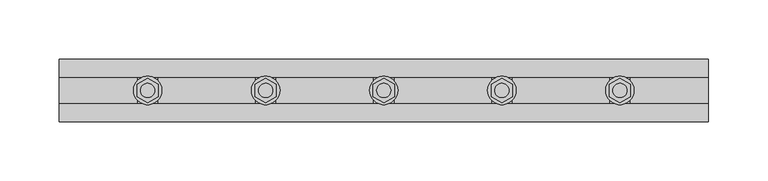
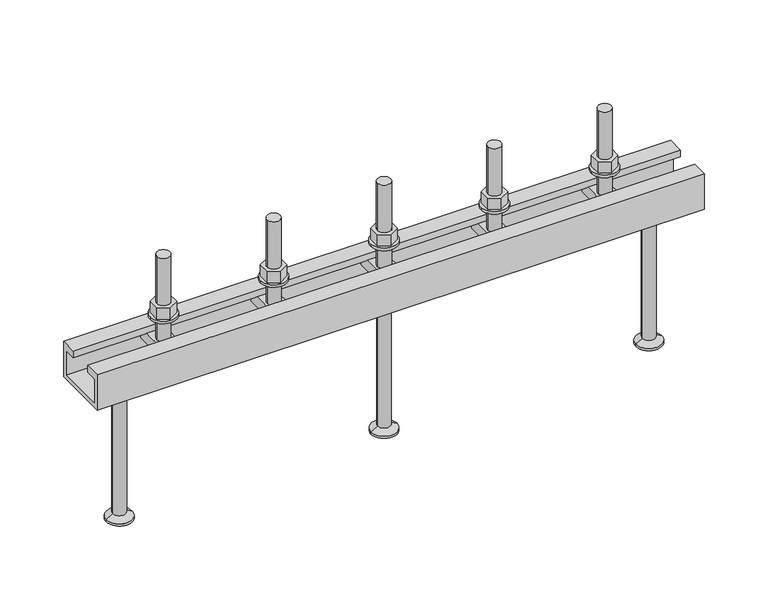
"""IFC4 building model written with IfcOpenShell, lengths in millimetres: fastener geometry, JTA-W JORDAHL® AnchorChannels : JTA-W L=550 mm."""

import ifcopenshell
import ifcopenshell.guid

model = None  # the IFC model being written
_history = None  # IfcOwnerHistory: only IFC2X3 demands one
_inside = {}  # id of a spatial element -> (the spatial element, [elements in it])
_under = {}  # id of a project, library or spatial element -> (it, [spatial elements below it])
_declared = {}  # id of a project -> (the project, [libraries it declares])
_typed = {}  # id of a type object -> (the type object, [elements of that type])
_made_of = {}  # id of a material, layer set ... -> (it, [elements and type objects made of it])


def new_model(schema):
    """Start an empty IFC model of exactly this schema.

    Asked for "IFC4X3", IfcOpenShell would pick the latest addendum, in which some entities
    have other attributes; the version numbers below select the first issue.
    IFC2X3 requires an IfcOwnerHistory on every rooted entity: one is made here for all.
    """
    global model, _history
    if schema == "IFC4X3":
        model = ifcopenshell.file(schema_version=(4, 3, 0, 0))
    else:
        model = ifcopenshell.file(schema=schema)
    _inside.clear()
    _under.clear()
    _declared.clear()
    _typed.clear()
    _made_of.clear()
    _history = None
    if model.schema == "IFC2X3":
        org = make("IfcOrganization", Name="unknown")
        user = make(
            "IfcPersonAndOrganization",
            ThePerson=make("IfcPerson", FamilyName="unknown"),
            TheOrganization=org,
        )
        app = make(
            "IfcApplication",
            ApplicationDeveloper=org,
            Version="unknown",
            ApplicationFullName="unknown",
            ApplicationIdentifier="unknown",
        )
        _history = make(
            "IfcOwnerHistory",
            OwningUser=user,
            OwningApplication=app,
            ChangeAction="ADDED",
            CreationDate=0,
        )
    return model


def make(cls, **values):
    """One entity of the class cls with the attributes given. An attribute that is None is left unset."""
    return model.create_entity(
        cls, **{name: value for name, value in values.items() if value is not None}
    )


def rooted(cls, **values):
    """An entity with a GlobalId (a new one), such as an element, a storey or a relation."""
    return make(cls, GlobalId=ifcopenshell.guid.new(), OwnerHistory=_history, **values)


def si_unit(unit_type, name, prefix=None):
    """IfcSIUnit, for example si_unit("LENGTHUNIT", "METRE", prefix="MILLI")."""
    return make("IfcSIUnit", UnitType=unit_type, Prefix=prefix, Name=name)


def assignment(units):
    """IfcUnitAssignment: the units of a project."""
    return None if units is None else make("IfcUnitAssignment", Units=units)


def point(xyz):
    """IfcCartesianPoint."""
    return None if xyz is None else make("IfcCartesianPoint", Coordinates=xyz)


def direction(xyz):
    """IfcDirection."""
    return None if xyz is None else make("IfcDirection", DirectionRatios=xyz)


def frame(location, z_axis=None, x_axis=None):
    """IfcAxis2Placement3D, a coordinate frame: its origin and axes. An axis left out is left unset."""
    return make(
        "IfcAxis2Placement3D",
        Location=point(location),
        Axis=direction(z_axis),
        RefDirection=direction(x_axis),
    )


def frame_2d(location, x_axis=None):
    """IfcAxis2Placement2D, a coordinate frame in the plane: its origin and x axis."""
    return make(
        "IfcAxis2Placement2D", Location=point(location), RefDirection=direction(x_axis)
    )


def origin():
    """The frame at (0, 0, 0) with its axes left unset."""
    return frame((0.0, 0.0, 0.0))


def place(relative_to, where):
    """IfcLocalPlacement: puts the frame where relative to a parent placement (None: the world)."""
    return make(
        "IfcLocalPlacement", PlacementRelTo=relative_to, RelativePlacement=where
    )


def context(
    kind, dimensions, precision=None, world=None, true_north=None, identifier=None
):
    """IfcGeometricRepresentationContext, for example the 3D "Model" context."""
    return make(
        "IfcGeometricRepresentationContext",
        ContextIdentifier=identifier,
        ContextType=kind,
        CoordinateSpaceDimension=dimensions,
        Precision=precision,
        WorldCoordinateSystem=world,
        TrueNorth=true_north,
    )


def project(units=None, contexts=None):
    """IfcProject with its units and contexts."""
    return rooted(
        "IfcProject",
        Name="project",
        RepresentationContexts=contexts,
        UnitsInContext=assignment(units),
    )


def spatial(cls, under=None, at=None, **own):
    """A site, building, storey or space (cls), placed at a placement, below another one or the project."""
    s = rooted(cls, ObjectPlacement=at, **own)
    if under is not None:
        _under.setdefault(under.id(), (under, []))[1].append(s)
    return s


def polyline(points):
    """IfcPolyline through the points."""
    return make("IfcPolyline", Points=[point(p) for p in points])


def circle_curve(where, radius):
    """IfcCircle in the frame where."""
    return make("IfcCircle", Position=where, Radius=radius)


def trimmed(basis, trim1, trim2, sense, master):
    """IfcTrimmedCurve: the piece of a basis curve between two trims."""
    return make(
        "IfcTrimmedCurve",
        BasisCurve=basis,
        Trim1=trim1,
        Trim2=trim2,
        SenseAgreement=sense,
        MasterRepresentation=master,
    )


def segment(curve, same_sense, transition):
    """IfcCompositeCurveSegment."""
    return make(
        "IfcCompositeCurveSegment",
        Transition=transition,
        SameSense=same_sense,
        ParentCurve=curve,
    )


def composite_curve(segments, self_intersect=None):
    """IfcCompositeCurve: segments joined end to end."""
    return make("IfcCompositeCurve", Segments=segments, SelfIntersect=self_intersect)


def outline(outer, holes=None, kind="AREA"):
    """IfcArbitraryClosedProfileDef: a profile drawn as a closed curve; with holes, ...WithVoids."""
    if holes is None:
        return make("IfcArbitraryClosedProfileDef", ProfileType=kind, OuterCurve=outer)
    return make(
        "IfcArbitraryProfileDefWithVoids",
        ProfileType=kind,
        OuterCurve=outer,
        InnerCurves=holes,
    )


def extrude(swept, where, along, depth):
    """IfcExtrudedAreaSolid: the profile swept, set in the frame where, extruded along a direction by depth."""
    return make(
        "IfcExtrudedAreaSolid",
        SweptArea=swept,
        Position=where,
        ExtrudedDirection=direction(along),
        Depth=depth,
    )


def shape(context_of_items, identifier, shape_type, items):
    """IfcShapeRepresentation: the items that make up one representation, for example the "Body"."""
    return make(
        "IfcShapeRepresentation",
        ContextOfItems=context_of_items,
        RepresentationIdentifier=identifier,
        RepresentationType=shape_type,
        Items=items,
    )


def source(mapping_origin, context_of_items, identifier, shape_type, items):
    """IfcRepresentationMap: a shape defined once, which mapped items show again and again."""
    return make(
        "IfcRepresentationMap",
        MappingOrigin=mapping_origin,
        MappedRepresentation=shape(context_of_items, identifier, shape_type, items),
    )


def transform(
    local_origin,
    x_axis=None,
    y_axis=None,
    z_axis=None,
    scale=None,
    scale2=None,
    scale3=None,
    uniform=True,
):
    """IfcCartesianTransformationOperator3D, or its non-uniform kind. x_axis, y_axis, z_axis: its Axis1, 2, 3."""
    if uniform:
        return make(
            "IfcCartesianTransformationOperator3D",
            Axis1=direction(x_axis),
            Axis2=direction(y_axis),
            LocalOrigin=point(local_origin),
            Scale=scale,
            Axis3=direction(z_axis),
        )
    return make(
        "IfcCartesianTransformationOperator3DnonUniform",
        Axis1=direction(x_axis),
        Axis2=direction(y_axis),
        LocalOrigin=point(local_origin),
        Scale=scale,
        Axis3=direction(z_axis),
        Scale2=scale2,
        Scale3=scale3,
    )


def mapped(mapping_source, mapping_target):
    """IfcMappedItem: shows the shape of a source again, moved by a transform."""
    return make(
        "IfcMappedItem", MappingSource=mapping_source, MappingTarget=mapping_target
    )


def made_of(thing, what):
    """Note that an element or type object is made of a material, layer set ...; save() writes the relation."""
    if what is not None:
        _made_of.setdefault(what.id(), (what, []))[1].append(thing)
    return thing


def element(
    cls,
    number,
    at=None,
    inside=None,
    cuts=None,
    type_object=None,
    material=None,
    context=None,
    identifier="Body",
    shape_type=None,
    held_by="IfcProductDefinitionShape",
    body=None,
    shapes=None,
    **own,
):
    """One element of the class cls, such as IfcWall. Its Tag is "e" and its number.

    at: its placement. inside: the storey or other place that contains it. cuts: it is an
    opening in that element (IfcRelVoidsElement). A single representation is given by context,
    identifier, shape_type and body (its items); several are given by shapes. held_by: the class
    of the entity that holds the representations. save() writes the other relations.
    """
    e = rooted(cls, Tag="e%d" % number, ObjectPlacement=at, **own)
    if body is not None:
        shapes = [shape(context, identifier, shape_type, body)]
    if shapes is not None:
        e.Representation = make(held_by, Representations=shapes)
    if inside is not None:
        _inside.setdefault(inside.id(), (inside, []))[1].append(e)
    if cuts is not None:
        rooted(
            "IfcRelVoidsElement", RelatingBuildingElement=cuts, RelatedOpeningElement=e
        )
    if type_object is not None:
        _typed.setdefault(type_object.id(), (type_object, []))[1].append(e)
    return made_of(e, material)


def aggregate(whole, parts):
    """IfcRelAggregates: a whole, such as a stair, and the parts it consists of."""
    return rooted("IfcRelAggregates", RelatingObject=whole, RelatedObjects=parts)


def save(model, path):
    """Write the relations noted so far, then the file.

    IfcRelAggregates (storeys below a building ...), IfcRelContainedInSpatialStructure (elements
    in a storey), IfcRelDefinesByType, IfcRelAssociatesMaterial and IfcRelDeclares: one each for
    every whole, place, type object, material and project.
    """
    for whole, parts in _under.values():
        aggregate(whole, parts)
    for where, things in _inside.values():
        rooted(
            "IfcRelContainedInSpatialStructure",
            RelatedElements=things,
            RelatingStructure=where,
        )
    for kind, things in _typed.values():
        rooted("IfcRelDefinesByType", RelatedObjects=things, RelatingType=kind)
    for what, things in _made_of.values():
        rooted("IfcRelAssociatesMaterial", RelatedObjects=things, RelatingMaterial=what)
    for by, libraries in _declared.values():
        rooted("IfcRelDeclares", RelatingContext=by, RelatedDefinitions=libraries)
    model.write(path)


def plane_surface(at):
    """IfcPlane: the flat surface through the origin of the frame at, square to its z axis."""
    return make("IfcPlane", Position=at)


def cylinder_surface(at, radius):
    """IfcCylindricalSurface: all points at the distance radius from the z axis of the frame at."""
    return make("IfcCylindricalSurface", Position=at, Radius=radius)


def revolved_surface(curve, axis_point, axis_direction):
    """IfcSurfaceOfRevolution: the curve turned about the line through axis_point along axis_direction."""
    return make(
        "IfcSurfaceOfRevolution",
        SweptCurve=make("IfcArbitraryOpenProfileDef", ProfileType="CURVE", Curve=curve),
        AxisPosition=make("IfcAxis1Placement", Location=point(axis_point), Axis=direction(axis_direction)),
    )


def advanced_brep(points, edges, surfaces, faces):
    """IfcAdvancedBrep: a solid bounded by faces that lie on surfaces and meet in shared edges.

    An edge is (start, end): straight between two places in points (the first is 0);
    or (start, end, curve); or (start, end, curve, False) where it runs against its curve.
    A face is (place in surfaces, loops), or (place, loops, False) where it looks against
    its surface's normal. A loop lists edges by number (the first is 1), with a minus sign
    where the edge is run from its end to its start. The first loop is the outer one.
    """
    corners = [point(p) for p in points]
    vertices = [make("IfcVertexPoint", VertexGeometry=c) for c in corners]
    made = []
    for start, end, *more in edges:
        made.append(
            make(
                "IfcEdgeCurve",
                EdgeStart=vertices[start],
                EdgeEnd=vertices[end],
                EdgeGeometry=more[0] if more else make("IfcPolyline", Points=[corners[start], corners[end]]),
                SameSense=more[1] if len(more) > 1 else True,
            )
        )
    hull = []
    for where, loops, *sense in faces:
        bounds = []
        for j, loop in enumerate(loops):
            ring = [make("IfcOrientedEdge", EdgeElement=made[abs(k) - 1], Orientation=k > 0) for k in loop]
            bounds.append(
                make(
                    "IfcFaceOuterBound" if j == 0 else "IfcFaceBound",
                    Bound=make("IfcEdgeLoop", EdgeList=ring),
                    Orientation=True,
                )
            )
        hull.append(make("IfcAdvancedFace", Bounds=bounds, FaceSurface=surfaces[where], SameSense=sense[0] if sense else True))
    return make("IfcAdvancedBrep", Outer=make("IfcClosedShell", CfsFaces=hull))


def fastener_7f6a9965(model_context):
    return source(origin(), model_context, "Body", "SolidModel", [
        extrude(outline(polyline([(375.0, -10.3923048), (366.0, -5.1961524), (366.0, 5.1961524), (375.0, 10.3923048), (384.0, 5.1961524), (384.0, -5.1961524), (375.0, -10.3923048)]), holes=[composite_curve([segment(trimmed(circle_curve(frame_2d((375.0, 0.0)), 6.0), [point((369.0, 0.0))], [point((381.0, 0.0))], True, "CARTESIAN"), True, "CONTINUOUS"), segment(trimmed(circle_curve(frame_2d((375.0, 0.0)), 6.0), [point((381.0, 0.0))], [point((369.0, 0.0))], True, "CARTESIAN"), True, "CONTINUOUS")], self_intersect=False)]), frame((0.0, 0.0, 17.5), z_axis=(0.0, 0.0, 1.0), x_axis=(1.0, 0.0, 0.0)), (0.0, 0.0, 1.0), 10.8),
        extrude(outline(composite_curve([segment(trimmed(circle_curve(frame_2d((375.0, 0.0)), 12.0), [point((363.0, 0.0))], [point((387.0, 0.0))], False, "CARTESIAN"), True, "CONTINUOUS"), segment(trimmed(circle_curve(frame_2d((375.0, 0.0)), 12.0), [point((387.0, 0.0))], [point((363.0, 0.0))], False, "CARTESIAN"), True, "CONTINUOUS")], self_intersect=False), holes=[composite_curve([segment(trimmed(circle_curve(frame_2d((375.0, 0.0)), 6.5), [point((368.5, 0.0))], [point((381.5, 0.0))], True, "CARTESIAN"), True, "CONTINUOUS"), segment(trimmed(circle_curve(frame_2d((375.0, 0.0)), 6.5), [point((381.5, 0.0))], [point((368.5, 0.0))], True, "CARTESIAN"), True, "CONTINUOUS")], self_intersect=False)]), frame((0.0, 0.0, 15.0), z_axis=(0.0, 0.0, 1.0), x_axis=(1.0, 0.0, 0.0)), (0.0, 0.0, 1.0), 2.5),
        extrude(outline(polyline([(275.0, -10.3923048), (266.0, -5.1961524), (266.0, 5.1961524), (275.0, 10.3923048), (284.0, 5.1961524), (284.0, -5.1961524), (275.0, -10.3923048)]), holes=[composite_curve([segment(trimmed(circle_curve(frame_2d((275.0, 0.0)), 6.0), [point((269.0, 0.0))], [point((281.0, 0.0))], True, "CARTESIAN"), True, "CONTINUOUS"), segment(trimmed(circle_curve(frame_2d((275.0, 0.0)), 6.0), [point((281.0, 0.0))], [point((269.0, 0.0))], True, "CARTESIAN"), True, "CONTINUOUS")], self_intersect=False)]), frame((0.0, 0.0, 17.5), z_axis=(0.0, 0.0, 1.0), x_axis=(1.0, 0.0, 0.0)), (0.0, 0.0, 1.0), 10.8),
        extrude(outline(composite_curve([segment(trimmed(circle_curve(frame_2d((275.0, 0.0)), 12.0), [point((263.0, 0.0))], [point((287.0, 0.0))], False, "CARTESIAN"), True, "CONTINUOUS"), segment(trimmed(circle_curve(frame_2d((275.0, 0.0)), 12.0), [point((287.0, 0.0))], [point((263.0, 0.0))], False, "CARTESIAN"), True, "CONTINUOUS")], self_intersect=False), holes=[composite_curve([segment(trimmed(circle_curve(frame_2d((275.0, 0.0)), 6.5), [point((268.5, 0.0))], [point((281.5, 0.0))], True, "CARTESIAN"), True, "CONTINUOUS"), segment(trimmed(circle_curve(frame_2d((275.0, 0.0)), 6.5), [point((281.5, 0.0))], [point((268.5, 0.0))], True, "CARTESIAN"), True, "CONTINUOUS")], self_intersect=False)]), frame((0.0, 0.0, 15.0), z_axis=(0.0, 0.0, 1.0), x_axis=(1.0, 0.0, 0.0)), (0.0, 0.0, 1.0), 2.5),
        extrude(outline(polyline([(175.0, -10.3923048), (166.0, -5.1961524), (166.0, 5.1961524), (175.0, 10.3923048), (184.0, 5.1961524), (184.0, -5.1961524), (175.0, -10.3923048)]), holes=[composite_curve([segment(trimmed(circle_curve(frame_2d((175.0, 0.0)), 6.0), [point((169.0, 0.0))], [point((181.0, 0.0))], True, "CARTESIAN"), True, "CONTINUOUS"), segment(trimmed(circle_curve(frame_2d((175.0, 0.0)), 6.0), [point((181.0, 0.0))], [point((169.0, 0.0))], True, "CARTESIAN"), True, "CONTINUOUS")], self_intersect=False)]), frame((0.0, 0.0, 17.5), z_axis=(0.0, 0.0, 1.0), x_axis=(1.0, 0.0, 0.0)), (0.0, 0.0, 1.0), 10.8),
        extrude(outline(composite_curve([segment(trimmed(circle_curve(frame_2d((175.0, 0.0)), 12.0), [point((163.0, 0.0))], [point((187.0, 0.0))], False, "CARTESIAN"), True, "CONTINUOUS"), segment(trimmed(circle_curve(frame_2d((175.0, 0.0)), 12.0), [point((187.0, 0.0))], [point((163.0, 0.0))], False, "CARTESIAN"), True, "CONTINUOUS")], self_intersect=False), holes=[composite_curve([segment(trimmed(circle_curve(frame_2d((175.0, 0.0)), 6.5), [point((168.5, 0.0))], [point((181.5, 0.0))], True, "CARTESIAN"), True, "CONTINUOUS"), segment(trimmed(circle_curve(frame_2d((175.0, 0.0)), 6.5), [point((181.5, 0.0))], [point((168.5, 0.0))], True, "CARTESIAN"), True, "CONTINUOUS")], self_intersect=False)]), frame((0.0, 0.0, 15.0), z_axis=(0.0, 0.0, 1.0), x_axis=(1.0, 0.0, 0.0)), (0.0, 0.0, 1.0), 2.5),
        advanced_brep(
        [(383.5, -20.7, -6.5), (383.5, -20.7, -16.5), (383.5, 20.7, -16.5), (383.5, 20.7, -6.5), (366.5, -20.7, -6.5), (366.5, 20.7, -6.5), (366.5, 20.7, -16.5), (366.5, -20.7, -16.5), (381.0, 0.0, -6.5), (369.0, 0.0, -6.5), (369.0, 0.0, 73.5), (381.0, 0.0, 73.5)],
        [
            (0, 1),
            (1, 2),
            (2, 3),
            (3, 0),
            (4, 5),
            (5, 6),
            (6, 7),
            (7, 4),
            (3, 5),
            (4, 0),
            (8, 9, circle_curve(frame((375.0, 0.0, -6.5), z_axis=(0.0, 0.0, -1.0), x_axis=(1.0, 0.0, 0.0)), 6.0)),
            (9, 8, circle_curve(frame((375.0, 0.0, -6.5), z_axis=(0.0, 0.0, -1.0), x_axis=(1.0, 0.0, 0.0)), 6.0)),
            (2, 6),
            (1, 7),
            (10, 11, circle_curve(frame((375.0, 0.0, 73.5), z_axis=(0.0, 0.0, 1.0), x_axis=(1.0, 0.0, 0.0)), 6.0)),
            (11, 10, circle_curve(frame((375.0, 0.0, 73.5), z_axis=(0.0, 0.0, 1.0), x_axis=(1.0, 0.0, 0.0)), 6.0)),
            (11, 8),
            (9, 10),
        ],
        [
            plane_surface(frame((383.5, 20.7, -6.5), z_axis=(1.0, 0.0, 0.0), x_axis=(0.0, 1.0, 0.0))),
            plane_surface(frame((366.5, 20.7, -6.5), z_axis=(-1.0, 0.0, 0.0), x_axis=(0.0, -1.0, 0.0))),
            plane_surface(frame((383.5, -20.7, -6.5), z_axis=(0.0, 0.0, 1.0), x_axis=(-1.0, 0.0, 0.0))),
            plane_surface(frame((383.5, 20.7, -6.5), z_axis=(0.0, 1.0, 0.0), x_axis=(-1.0, 0.0, 0.0))),
            plane_surface(frame((383.5, 20.7, -16.5), z_axis=(0.0, 0.0, -1.0), x_axis=(-1.0, 0.0, 0.0))),
            plane_surface(frame((383.5, -20.7, -16.5), z_axis=(0.0, -1.0, 0.0), x_axis=(-1.0, 0.0, 0.0))),
            plane_surface(frame((381.0, 0.0, 73.5), z_axis=(0.0, 0.0, 1.0), x_axis=(0.0, -1.0, 0.0))),
            cylinder_surface(frame((375.0, 0.0, -6.5), z_axis=(0.0, 0.0, 1.0), x_axis=(1.0, 0.0, 0.0)), 6.0),
        ],
        [
            (0, [[1, 2, 3, 4]]),
            (1, [[5, 6, 7, 8]]),
            (2, [[9, -5, 10, -4], [11, 12]]),
            (3, [[13, -6, -9, -3]]),
            (4, [[14, -7, -13, -2]]),
            (5, [[-10, -8, -14, -1]]),
            (6, [[15, 16]]),
            (7, [[17, -12, 18, -16]]),
            (7, [[-18, -11, -17, -15]]),
        ],
    ),
        advanced_brep(
        [(283.5, -20.7, -6.5), (283.5, -20.7, -16.5), (283.5, 20.7, -16.5), (283.5, 20.7, -6.5), (266.5, -20.7, -6.5), (266.5, 20.7, -6.5), (266.5, 20.7, -16.5), (266.5, -20.7, -16.5), (281.0, 0.0, -6.5), (269.0, 0.0, -6.5), (269.0, 0.0, 73.5), (281.0, 0.0, 73.5)],
        [
            (0, 1),
            (1, 2),
            (2, 3),
            (3, 0),
            (4, 5),
            (5, 6),
            (6, 7),
            (7, 4),
            (3, 5),
            (4, 0),
            (8, 9, circle_curve(frame((275.0, 0.0, -6.5), z_axis=(0.0, 0.0, -1.0), x_axis=(1.0, 0.0, 0.0)), 6.0)),
            (9, 8, circle_curve(frame((275.0, 0.0, -6.5), z_axis=(0.0, 0.0, -1.0), x_axis=(1.0, 0.0, 0.0)), 6.0)),
            (2, 6),
            (1, 7),
            (10, 11, circle_curve(frame((275.0, 0.0, 73.5), z_axis=(0.0, 0.0, 1.0), x_axis=(1.0, 0.0, 0.0)), 6.0)),
            (11, 10, circle_curve(frame((275.0, 0.0, 73.5), z_axis=(0.0, 0.0, 1.0), x_axis=(1.0, 0.0, 0.0)), 6.0)),
            (11, 8),
            (9, 10),
        ],
        [
            plane_surface(frame((283.5, 20.7, -6.5), z_axis=(1.0, 0.0, 0.0), x_axis=(0.0, 1.0, 0.0))),
            plane_surface(frame((266.5, 20.7, -6.5), z_axis=(-1.0, 0.0, 0.0), x_axis=(0.0, -1.0, 0.0))),
            plane_surface(frame((283.5, -20.7, -6.5), z_axis=(0.0, 0.0, 1.0), x_axis=(-1.0, 0.0, 0.0))),
            plane_surface(frame((283.5, 20.7, -6.5), z_axis=(0.0, 1.0, 0.0), x_axis=(-1.0, 0.0, 0.0))),
            plane_surface(frame((283.5, 20.7, -16.5), z_axis=(0.0, 0.0, -1.0), x_axis=(-1.0, 0.0, 0.0))),
            plane_surface(frame((283.5, -20.7, -16.5), z_axis=(0.0, -1.0, 0.0), x_axis=(-1.0, 0.0, 0.0))),
            plane_surface(frame((281.0, 0.0, 73.5), z_axis=(0.0, 0.0, 1.0), x_axis=(0.0, -1.0, 0.0))),
            cylinder_surface(frame((275.0, 0.0, -6.5), z_axis=(0.0, 0.0, 1.0), x_axis=(1.0, 0.0, 0.0)), 6.0),
        ],
        [
            (0, [[1, 2, 3, 4]]),
            (1, [[5, 6, 7, 8]]),
            (2, [[9, -5, 10, -4], [11, 12]]),
            (3, [[13, -6, -9, -3]]),
            (4, [[14, -7, -13, -2]]),
            (5, [[-10, -8, -14, -1]]),
            (6, [[15, 16]]),
            (7, [[17, -12, 18, -16]]),
            (7, [[-18, -11, -17, -15]]),
        ],
    ),
        advanced_brep(
        [(183.5, -20.7, -6.5), (183.5, -20.7, -16.5), (183.5, 20.7, -16.5), (183.5, 20.7, -6.5), (166.5, -20.7, -6.5), (166.5, 20.7, -6.5), (166.5, 20.7, -16.5), (166.5, -20.7, -16.5), (181.0, 0.0, -6.5), (169.0, 0.0, -6.5), (169.0, 0.0, 73.5), (181.0, 0.0, 73.5)],
        [
            (0, 1),
            (1, 2),
            (2, 3),
            (3, 0),
            (4, 5),
            (5, 6),
            (6, 7),
            (7, 4),
            (3, 5),
            (4, 0),
            (8, 9, circle_curve(frame((175.0, 0.0, -6.5), z_axis=(0.0, 0.0, -1.0), x_axis=(1.0, 0.0, 0.0)), 6.0)),
            (9, 8, circle_curve(frame((175.0, 0.0, -6.5), z_axis=(0.0, 0.0, -1.0), x_axis=(1.0, 0.0, 0.0)), 6.0)),
            (2, 6),
            (1, 7),
            (10, 11, circle_curve(frame((175.0, 0.0, 73.5), z_axis=(0.0, 0.0, 1.0), x_axis=(1.0, 0.0, 0.0)), 6.0)),
            (11, 10, circle_curve(frame((175.0, 0.0, 73.5), z_axis=(0.0, 0.0, 1.0), x_axis=(1.0, 0.0, 0.0)), 6.0)),
            (11, 8),
            (9, 10),
        ],
        [
            plane_surface(frame((183.5, 20.7, -6.5), z_axis=(1.0, 0.0, 0.0), x_axis=(0.0, 1.0, 0.0))),
            plane_surface(frame((166.5, 20.7, -6.5), z_axis=(-1.0, 0.0, 0.0), x_axis=(0.0, -1.0, 0.0))),
            plane_surface(frame((183.5, -20.7, -6.5), z_axis=(0.0, 0.0, 1.0), x_axis=(-1.0, 0.0, 0.0))),
            plane_surface(frame((183.5, 20.7, -6.5), z_axis=(0.0, 1.0, 0.0), x_axis=(-1.0, 0.0, 0.0))),
            plane_surface(frame((183.5, 20.7, -16.5), z_axis=(0.0, 0.0, -1.0), x_axis=(-1.0, 0.0, 0.0))),
            plane_surface(frame((183.5, -20.7, -16.5), z_axis=(0.0, -1.0, 0.0), x_axis=(-1.0, 0.0, 0.0))),
            plane_surface(frame((181.0, 0.0, 73.5), z_axis=(0.0, 0.0, 1.0), x_axis=(0.0, -1.0, 0.0))),
            cylinder_surface(frame((175.0, 0.0, -6.5), z_axis=(0.0, 0.0, 1.0), x_axis=(1.0, 0.0, 0.0)), 6.0),
        ],
        [
            (0, [[1, 2, 3, 4]]),
            (1, [[5, 6, 7, 8]]),
            (2, [[9, -5, 10, -4], [11, 12]]),
            (3, [[13, -6, -9, -3]]),
            (4, [[14, -7, -13, -2]]),
            (5, [[-10, -8, -14, -1]]),
            (6, [[15, 16]]),
            (7, [[17, -12, 18, -16]]),
            (7, [[-18, -11, -17, -15]]),
        ],
    ),
        advanced_brep(
        [(275.0, 0.0, -34.0), (257.5, 0.0, -34.0), (292.5, 0.0, -34.0), (263.2, 0.0, -165.0), (275.0, 0.0, -165.0), (286.8, 0.0, -165.0), (263.2, 0.0, -163.0), (286.8, 0.0, -163.0), (269.2, 0.0, -159.5358984), (280.8, 0.0, -159.5358984), (269.2, 0.0, -37.0), (280.8, 0.0, -37.0)],
        [
            (0, 1),
            (1, 2, circle_curve(frame((275.0, 0.0, -34.0), z_axis=(0.0, 0.0, 1.0), x_axis=(1.0, 0.0, 0.0)), 17.5)),
            (2, 0),
            (2, 1, circle_curve(frame((275.0, 0.0, -34.0), z_axis=(0.0, 0.0, 1.0), x_axis=(1.0, 0.0, 0.0)), 17.5)),
            (3, 4),
            (4, 5),
            (5, 3, circle_curve(frame((275.0, 0.0, -165.0), z_axis=(0.0, 0.0, -1.0), x_axis=(1.0, 0.0, 0.0)), 11.8)),
            (3, 5, circle_curve(frame((275.0, 0.0, -165.0), z_axis=(0.0, 0.0, -1.0), x_axis=(1.0, 0.0, 0.0)), 11.8)),
            (6, 3),
            (5, 7),
            (7, 6, circle_curve(frame((275.0, 0.0, -163.0), z_axis=(0.0, 0.0, -1.0), x_axis=(1.0, 0.0, 0.0)), 11.8)),
            (6, 7, circle_curve(frame((275.0, 0.0, -163.0), z_axis=(0.0, 0.0, -1.0), x_axis=(1.0, 0.0, 0.0)), 11.8)),
            (8, 6),
            (7, 9),
            (9, 8, circle_curve(frame((275.0, 0.0, -159.5358984), z_axis=(0.0, 0.0, -1.0), x_axis=(1.0, 0.0, 0.0)), 5.8)),
            (8, 9, circle_curve(frame((275.0, 0.0, -159.5358984), z_axis=(0.0, 0.0, -1.0), x_axis=(1.0, 0.0, 0.0)), 5.8)),
            (10, 8),
            (9, 11),
            (11, 10, circle_curve(frame((275.0, 0.0, -37.0), z_axis=(0.0, 0.0, -1.0), x_axis=(1.0, 0.0, 0.0)), 5.8)),
            (10, 11, circle_curve(frame((275.0, 0.0, -37.0), z_axis=(0.0, 0.0, -1.0), x_axis=(1.0, 0.0, 0.0)), 5.8)),
            (1, 10),
            (11, 2),
        ],
        [
            plane_surface(frame((275.0, 0.0, -34.0), z_axis=(0.0, 0.0, 1.0), x_axis=(1.0, 0.0, 0.0))),
            plane_surface(frame((275.0, 0.0, -165.0), z_axis=(0.0, 0.0, -1.0), x_axis=(1.0, 0.0, 0.0))),
            cylinder_surface(frame((275.0, 0.0, 2345.3150031), z_axis=(0.0, 0.0, 1.0), x_axis=(1.0, 0.0, 0.0)), 11.8),
            revolved_surface(polyline([(286.8, 0.0, -163.0), (280.8, 0.0, -159.5358984)]), (275.0, 0.0, 2345.3150031), (0.0, 0.0, 1.0)),
            cylinder_surface(frame((275.0, 0.0, 2345.3150031), z_axis=(0.0, 0.0, 1.0), x_axis=(1.0, 0.0, 0.0)), 5.8),
            revolved_surface(polyline([(280.8, 0.0, -37.0), (292.5, 0.0, -34.0)]), (275.0, 0.0, 2345.3150031), (0.0, 0.0, 1.0)),
        ],
        [
            (0, [[1, 2, 3]]),
            (0, [[-3, 4, -1]]),
            (1, [[5, 6, 7]]),
            (1, [[-6, -5, 8]]),
            (2, [[9, -7, 10, 11]]),
            (2, [[-10, -8, -9, 12]]),
            (3, [[13, -11, 14, 15]]),
            (3, [[-14, -12, -13, 16]]),
            (4, [[17, -15, 18, 19]]),
            (4, [[-18, -16, -17, 20]]),
            (5, [[21, -19, 22, -2]]),
            (5, [[-22, -20, -21, -4]]),
        ],
    ),
        extrude(outline(polyline([(475.0, -10.3923048), (466.0, -5.1961524), (466.0, 5.1961524), (475.0, 10.3923048), (484.0, 5.1961524), (484.0, -5.1961524), (475.0, -10.3923048)]), holes=[composite_curve([segment(trimmed(circle_curve(frame_2d((475.0, 0.0)), 6.0), [point((469.0, 0.0))], [point((481.0, 0.0))], True, "CARTESIAN"), True, "CONTINUOUS"), segment(trimmed(circle_curve(frame_2d((475.0, 0.0)), 6.0), [point((481.0, 0.0))], [point((469.0, 0.0))], True, "CARTESIAN"), True, "CONTINUOUS")], self_intersect=False)]), frame((0.0, 0.0, 17.5), z_axis=(0.0, 0.0, 1.0), x_axis=(1.0, 0.0, 0.0)), (0.0, 0.0, 1.0), 10.8),
        extrude(outline(composite_curve([segment(trimmed(circle_curve(frame_2d((475.0, 0.0)), 12.0), [point((463.0, 0.0))], [point((487.0, 0.0))], False, "CARTESIAN"), True, "CONTINUOUS"), segment(trimmed(circle_curve(frame_2d((475.0, 0.0)), 12.0), [point((487.0, 0.0))], [point((463.0, 0.0))], False, "CARTESIAN"), True, "CONTINUOUS")], self_intersect=False), holes=[composite_curve([segment(trimmed(circle_curve(frame_2d((475.0, 0.0)), 6.5), [point((468.5, 0.0))], [point((481.5, 0.0))], True, "CARTESIAN"), True, "CONTINUOUS"), segment(trimmed(circle_curve(frame_2d((475.0, 0.0)), 6.5), [point((481.5, 0.0))], [point((468.5, 0.0))], True, "CARTESIAN"), True, "CONTINUOUS")], self_intersect=False)]), frame((0.0, 0.0, 15.0), z_axis=(0.0, 0.0, 1.0), x_axis=(1.0, 0.0, 0.0)), (0.0, 0.0, 1.0), 2.5),
        extrude(outline(polyline([(75.0, -10.3923048), (66.0, -5.1961524), (66.0, 5.1961524), (75.0, 10.3923048), (84.0, 5.1961524), (84.0, -5.1961524), (75.0, -10.3923048)]), holes=[composite_curve([segment(trimmed(circle_curve(frame_2d((75.0, 0.0)), 6.0), [point((69.0, 0.0))], [point((81.0, 0.0))], True, "CARTESIAN"), True, "CONTINUOUS"), segment(trimmed(circle_curve(frame_2d((75.0, 0.0)), 6.0), [point((81.0, 0.0))], [point((69.0, 0.0))], True, "CARTESIAN"), True, "CONTINUOUS")], self_intersect=False)]), frame((0.0, 0.0, 17.5), z_axis=(0.0, 0.0, 1.0), x_axis=(1.0, 0.0, 0.0)), (0.0, 0.0, 1.0), 10.8),
        extrude(outline(composite_curve([segment(trimmed(circle_curve(frame_2d((75.0, 0.0)), 12.0), [point((63.0, 0.0))], [point((87.0, 0.0))], False, "CARTESIAN"), True, "CONTINUOUS"), segment(trimmed(circle_curve(frame_2d((75.0, 0.0)), 12.0), [point((87.0, 0.0))], [point((63.0, 0.0))], False, "CARTESIAN"), True, "CONTINUOUS")], self_intersect=False), holes=[composite_curve([segment(trimmed(circle_curve(frame_2d((75.0, 0.0)), 6.5), [point((68.5, 0.0))], [point((81.5, 0.0))], True, "CARTESIAN"), True, "CONTINUOUS"), segment(trimmed(circle_curve(frame_2d((75.0, 0.0)), 6.5), [point((81.5, 0.0))], [point((68.5, 0.0))], True, "CARTESIAN"), True, "CONTINUOUS")], self_intersect=False)]), frame((0.0, 0.0, 15.0), z_axis=(0.0, 0.0, 1.0), x_axis=(1.0, 0.0, 0.0)), (0.0, 0.0, 1.0), 2.5),
        advanced_brep(
        [(483.5, -20.7, -6.5), (483.5, -20.7, -16.5), (483.5, 20.7, -16.5), (483.5, 20.7, -6.5), (466.5, -20.7, -6.5), (466.5, 20.7, -6.5), (466.5, 20.7, -16.5), (466.5, -20.7, -16.5), (481.0, 0.0, -6.5), (469.0, 0.0, -6.5), (469.0, 0.0, 73.5), (481.0, 0.0, 73.5)],
        [
            (0, 1),
            (1, 2),
            (2, 3),
            (3, 0),
            (4, 5),
            (5, 6),
            (6, 7),
            (7, 4),
            (3, 5),
            (4, 0),
            (8, 9, circle_curve(frame((475.0, 0.0, -6.5), z_axis=(0.0, 0.0, -1.0), x_axis=(1.0, 0.0, 0.0)), 6.0)),
            (9, 8, circle_curve(frame((475.0, 0.0, -6.5), z_axis=(0.0, 0.0, -1.0), x_axis=(1.0, 0.0, 0.0)), 6.0)),
            (2, 6),
            (1, 7),
            (10, 11, circle_curve(frame((475.0, 0.0, 73.5), z_axis=(0.0, 0.0, 1.0), x_axis=(1.0, 0.0, 0.0)), 6.0)),
            (11, 10, circle_curve(frame((475.0, 0.0, 73.5), z_axis=(0.0, 0.0, 1.0), x_axis=(1.0, 0.0, 0.0)), 6.0)),
            (11, 8),
            (9, 10),
        ],
        [
            plane_surface(frame((483.5, 20.7, -6.5), z_axis=(1.0, 0.0, 0.0), x_axis=(0.0, 1.0, 0.0))),
            plane_surface(frame((466.5, 20.7, -6.5), z_axis=(-1.0, 0.0, 0.0), x_axis=(0.0, -1.0, 0.0))),
            plane_surface(frame((483.5, -20.7, -6.5), z_axis=(0.0, 0.0, 1.0), x_axis=(-1.0, 0.0, 0.0))),
            plane_surface(frame((483.5, 20.7, -6.5), z_axis=(0.0, 1.0, 0.0), x_axis=(-1.0, 0.0, 0.0))),
            plane_surface(frame((483.5, 20.7, -16.5), z_axis=(0.0, 0.0, -1.0), x_axis=(-1.0, 0.0, 0.0))),
            plane_surface(frame((483.5, -20.7, -16.5), z_axis=(0.0, -1.0, 0.0), x_axis=(-1.0, 0.0, 0.0))),
            plane_surface(frame((481.0, 0.0, 73.5), z_axis=(0.0, 0.0, 1.0), x_axis=(0.0, -1.0, 0.0))),
            cylinder_surface(frame((475.0, 0.0, -6.5), z_axis=(0.0, 0.0, 1.0), x_axis=(1.0, 0.0, 0.0)), 6.0),
        ],
        [
            (0, [[1, 2, 3, 4]]),
            (1, [[5, 6, 7, 8]]),
            (2, [[9, -5, 10, -4], [11, 12]]),
            (3, [[13, -6, -9, -3]]),
            (4, [[14, -7, -13, -2]]),
            (5, [[-10, -8, -14, -1]]),
            (6, [[15, 16]]),
            (7, [[17, -12, 18, -16]]),
            (7, [[-18, -11, -17, -15]]),
        ],
    ),
        advanced_brep(
        [(83.5, -20.7, -6.5), (83.5, -20.7, -16.5), (83.5, 20.7, -16.5), (83.5, 20.7, -6.5), (66.5, -20.7, -6.5), (66.5, 20.7, -6.5), (66.5, 20.7, -16.5), (66.5, -20.7, -16.5), (81.0, 0.0, -6.5), (69.0, 0.0, -6.5), (69.0, 0.0, 73.5), (81.0, 0.0, 73.5)],
        [
            (0, 1),
            (1, 2),
            (2, 3),
            (3, 0),
            (4, 5),
            (5, 6),
            (6, 7),
            (7, 4),
            (3, 5),
            (4, 0),
            (8, 9, circle_curve(frame((75.0, 0.0, -6.5), z_axis=(0.0, 0.0, -1.0), x_axis=(1.0, 0.0, 0.0)), 6.0)),
            (9, 8, circle_curve(frame((75.0, 0.0, -6.5), z_axis=(0.0, 0.0, -1.0), x_axis=(1.0, 0.0, 0.0)), 6.0)),
            (2, 6),
            (1, 7),
            (10, 11, circle_curve(frame((75.0, 0.0, 73.5), z_axis=(0.0, 0.0, 1.0), x_axis=(1.0, 0.0, 0.0)), 6.0)),
            (11, 10, circle_curve(frame((75.0, 0.0, 73.5), z_axis=(0.0, 0.0, 1.0), x_axis=(1.0, 0.0, 0.0)), 6.0)),
            (11, 8),
            (9, 10),
        ],
        [
            plane_surface(frame((83.5, 20.7, -6.5), z_axis=(1.0, 0.0, 0.0), x_axis=(0.0, 1.0, 0.0))),
            plane_surface(frame((66.5, 20.7, -6.5), z_axis=(-1.0, 0.0, 0.0), x_axis=(0.0, -1.0, 0.0))),
            plane_surface(frame((83.5, -20.7, -6.5), z_axis=(0.0, 0.0, 1.0), x_axis=(-1.0, 0.0, 0.0))),
            plane_surface(frame((83.5, 20.7, -6.5), z_axis=(0.0, 1.0, 0.0), x_axis=(-1.0, 0.0, 0.0))),
            plane_surface(frame((83.5, 20.7, -16.5), z_axis=(0.0, 0.0, -1.0), x_axis=(-1.0, 0.0, 0.0))),
            plane_surface(frame((83.5, -20.7, -16.5), z_axis=(0.0, -1.0, 0.0), x_axis=(-1.0, 0.0, 0.0))),
            plane_surface(frame((81.0, 0.0, 73.5), z_axis=(0.0, 0.0, 1.0), x_axis=(0.0, -1.0, 0.0))),
            cylinder_surface(frame((75.0, 0.0, -6.5), z_axis=(0.0, 0.0, 1.0), x_axis=(1.0, 0.0, 0.0)), 6.0),
        ],
        [
            (0, [[1, 2, 3, 4]]),
            (1, [[5, 6, 7, 8]]),
            (2, [[9, -5, 10, -4], [11, 12]]),
            (3, [[13, -6, -9, -3]]),
            (4, [[14, -7, -13, -2]]),
            (5, [[-10, -8, -14, -1]]),
            (6, [[15, 16]]),
            (7, [[17, -12, 18, -16]]),
            (7, [[-18, -11, -17, -15]]),
        ],
    ),
        advanced_brep(
        [(515.0, 0.0, -34.0), (497.5, 0.0, -34.0), (532.5, 0.0, -34.0), (503.2, 0.0, -165.0), (515.0, 0.0, -165.0), (526.8, 0.0, -165.0), (503.2, 0.0, -163.0), (526.8, 0.0, -163.0), (509.2, 0.0, -159.5358984), (520.8, 0.0, -159.5358984), (509.2, 0.0, -37.0), (520.8, 0.0, -37.0)],
        [
            (0, 1),
            (1, 2, circle_curve(frame((515.0, 0.0, -34.0), z_axis=(0.0, 0.0, 1.0), x_axis=(1.0, 0.0, 0.0)), 17.5)),
            (2, 0),
            (2, 1, circle_curve(frame((515.0, 0.0, -34.0), z_axis=(0.0, 0.0, 1.0), x_axis=(1.0, 0.0, 0.0)), 17.5)),
            (3, 4),
            (4, 5),
            (5, 3, circle_curve(frame((515.0, 0.0, -165.0), z_axis=(0.0, 0.0, -1.0), x_axis=(1.0, 0.0, 0.0)), 11.8)),
            (3, 5, circle_curve(frame((515.0, 0.0, -165.0), z_axis=(0.0, 0.0, -1.0), x_axis=(1.0, 0.0, 0.0)), 11.8)),
            (6, 3),
            (5, 7),
            (7, 6, circle_curve(frame((515.0, 0.0, -163.0), z_axis=(0.0, 0.0, -1.0), x_axis=(1.0, 0.0, 0.0)), 11.8)),
            (6, 7, circle_curve(frame((515.0, 0.0, -163.0), z_axis=(0.0, 0.0, -1.0), x_axis=(1.0, 0.0, 0.0)), 11.8)),
            (8, 6),
            (7, 9),
            (9, 8, circle_curve(frame((515.0, 0.0, -159.5358984), z_axis=(0.0, 0.0, -1.0), x_axis=(1.0, 0.0, 0.0)), 5.8)),
            (8, 9, circle_curve(frame((515.0, 0.0, -159.5358984), z_axis=(0.0, 0.0, -1.0), x_axis=(1.0, 0.0, 0.0)), 5.8)),
            (10, 8),
            (9, 11),
            (11, 10, circle_curve(frame((515.0, 0.0, -37.0), z_axis=(0.0, 0.0, -1.0), x_axis=(1.0, 0.0, 0.0)), 5.8)),
            (10, 11, circle_curve(frame((515.0, 0.0, -37.0), z_axis=(0.0, 0.0, -1.0), x_axis=(1.0, 0.0, 0.0)), 5.8)),
            (1, 10),
            (11, 2),
        ],
        [
            plane_surface(frame((515.0, 0.0, -34.0), z_axis=(0.0, 0.0, 1.0), x_axis=(1.0, 0.0, 0.0))),
            plane_surface(frame((515.0, 0.0, -165.0), z_axis=(0.0, 0.0, -1.0), x_axis=(1.0, 0.0, 0.0))),
            cylinder_surface(frame((515.0, 0.0, 2345.3150031), z_axis=(0.0, 0.0, 1.0), x_axis=(1.0, 0.0, 0.0)), 11.8),
            revolved_surface(polyline([(526.8, 0.0, -163.0), (520.8, 0.0, -159.5358984)]), (515.0, 0.0, 2345.3150031), (0.0, 0.0, 1.0)),
            cylinder_surface(frame((515.0, 0.0, 2345.3150031), z_axis=(0.0, 0.0, 1.0), x_axis=(1.0, 0.0, 0.0)), 5.8),
            revolved_surface(polyline([(520.8, 0.0, -37.0), (532.5, 0.0, -34.0)]), (515.0, 0.0, 2345.3150031), (0.0, 0.0, 1.0)),
        ],
        [
            (0, [[1, 2, 3]]),
            (0, [[-3, 4, -1]]),
            (1, [[5, 6, 7]]),
            (1, [[-6, -5, 8]]),
            (2, [[9, -7, 10, 11]]),
            (2, [[-10, -8, -9, 12]]),
            (3, [[13, -11, 14, 15]]),
            (3, [[-14, -12, -13, 16]]),
            (4, [[17, -15, 18, 19]]),
            (4, [[-18, -16, -17, 20]]),
            (5, [[21, -19, 22, -2]]),
            (5, [[-22, -20, -21, -4]]),
        ],
    ),
        advanced_brep(
        [(35.0, 0.0, -34.0), (17.5, 0.0, -34.0), (52.5, 0.0, -34.0), (23.2, 0.0, -165.0), (35.0, 0.0, -165.0), (46.8, 0.0, -165.0), (23.2, 0.0, -163.0), (46.8, 0.0, -163.0), (29.2, 0.0, -159.5358984), (40.8, 0.0, -159.5358984), (29.2, 0.0, -37.0), (40.8, 0.0, -37.0)],
        [
            (0, 1),
            (1, 2, circle_curve(frame((35.0, 0.0, -34.0), z_axis=(0.0, 0.0, 1.0), x_axis=(1.0, 0.0, 0.0)), 17.5)),
            (2, 0),
            (2, 1, circle_curve(frame((35.0, 0.0, -34.0), z_axis=(0.0, 0.0, 1.0), x_axis=(1.0, 0.0, 0.0)), 17.5)),
            (3, 4),
            (4, 5),
            (5, 3, circle_curve(frame((35.0, 0.0, -165.0), z_axis=(0.0, 0.0, -1.0), x_axis=(1.0, 0.0, 0.0)), 11.8)),
            (3, 5, circle_curve(frame((35.0, 0.0, -165.0), z_axis=(0.0, 0.0, -1.0), x_axis=(1.0, 0.0, 0.0)), 11.8)),
            (6, 3),
            (5, 7),
            (7, 6, circle_curve(frame((35.0, 0.0, -163.0), z_axis=(0.0, 0.0, -1.0), x_axis=(1.0, 0.0, 0.0)), 11.8)),
            (6, 7, circle_curve(frame((35.0, 0.0, -163.0), z_axis=(0.0, 0.0, -1.0), x_axis=(1.0, 0.0, 0.0)), 11.8)),
            (8, 6),
            (7, 9),
            (9, 8, circle_curve(frame((35.0, 0.0, -159.5358984), z_axis=(0.0, 0.0, -1.0), x_axis=(1.0, 0.0, 0.0)), 5.8)),
            (8, 9, circle_curve(frame((35.0, 0.0, -159.5358984), z_axis=(0.0, 0.0, -1.0), x_axis=(1.0, 0.0, 0.0)), 5.8)),
            (10, 8),
            (9, 11),
            (11, 10, circle_curve(frame((35.0, 0.0, -37.0), z_axis=(0.0, 0.0, -1.0), x_axis=(1.0, 0.0, 0.0)), 5.8)),
            (10, 11, circle_curve(frame((35.0, 0.0, -37.0), z_axis=(0.0, 0.0, -1.0), x_axis=(1.0, 0.0, 0.0)), 5.8)),
            (1, 10),
            (11, 2),
        ],
        [
            plane_surface(frame((35.0, 0.0, -34.0), z_axis=(0.0, 0.0, 1.0), x_axis=(1.0, 0.0, 0.0))),
            plane_surface(frame((35.0, 0.0, -165.0), z_axis=(0.0, 0.0, -1.0), x_axis=(1.0, 0.0, 0.0))),
            cylinder_surface(frame((35.0, 0.0, 2345.3150031), z_axis=(0.0, 0.0, 1.0), x_axis=(1.0, 0.0, 0.0)), 11.8),
            revolved_surface(polyline([(46.8, 0.0, -163.0), (40.8, 0.0, -159.5358984)]), (35.0, 0.0, 2345.3150031), (0.0, 0.0, 1.0)),
            cylinder_surface(frame((35.0, 0.0, 2345.3150031), z_axis=(0.0, 0.0, 1.0), x_axis=(1.0, 0.0, 0.0)), 5.8),
            revolved_surface(polyline([(40.8, 0.0, -37.0), (52.5, 0.0, -34.0)]), (35.0, 0.0, 2345.3150031), (0.0, 0.0, 1.0)),
        ],
        [
            (0, [[1, 2, 3]]),
            (0, [[-3, 4, -1]]),
            (1, [[5, 6, 7]]),
            (1, [[-6, -5, 8]]),
            (2, [[9, -7, 10, 11]]),
            (2, [[-10, -8, -9, 12]]),
            (3, [[13, -11, 14, 15]]),
            (3, [[-14, -12, -13, 16]]),
            (4, [[17, -15, 18, 19]]),
            (4, [[-18, -16, -17, 20]]),
            (5, [[21, -19, 22, -2]]),
            (5, [[-22, -20, -21, -4]]),
        ],
    ),
        extrude(outline(polyline([(-26.5, 0.0), (-11.25, 0.0), (-11.25, -6.5), (-22.5, -6.5), (-22.5, -30.0), (22.5, -30.0), (22.5, -6.5), (11.25, -6.5), (11.25, 0.0), (26.5, 0.0), (26.5, -34.0), (-26.5, -34.0), (-26.5, 0.0)])), frame((0.0, 0.0, 0.0), z_axis=(1.0, 0.0, 0.0), x_axis=(0.0, 1.0, 0.0)), (0.0, 0.0, 1.0), 550.0),
    ])


if __name__ == "__main__":
    model = new_model("IFC4")
    model_context = context("Model", 3, world=origin())
    ifc_project = project(units=[si_unit("LENGTHUNIT", "METRE", prefix="MILLI")], contexts=[model_context])
    site = spatial("IfcSite", under=ifc_project)
    building = spatial("IfcBuilding", under=site)
    placement = place(None, origin())
    fastener_shape = fastener_7f6a9965(model_context)
    element("IfcFastener", 1, ObjectType="JTA-W JORDAHL® AnchorChannels : JTA-W L=550 mm", at=placement, inside=building, context=model_context, shape_type="MappedRepresentation", body=[
        mapped(fastener_shape, transform((0.0, 0.0, 0.0), x_axis=(1.0, 0.0, 0.0), y_axis=(0.0, 1.0, 0.0), z_axis=(0.0, 0.0, 1.0))),
    ])
    save(model, "model.ifc")
